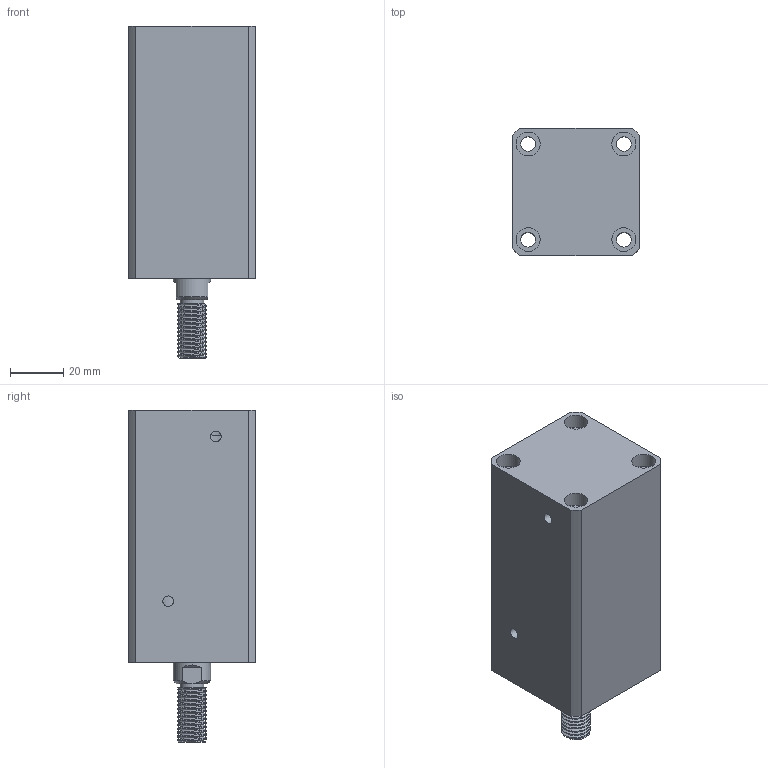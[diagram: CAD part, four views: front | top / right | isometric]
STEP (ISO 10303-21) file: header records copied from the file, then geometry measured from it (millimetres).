
FILE_DESCRIPTION(/* description */ (''),/* implementation_level */ '2;1');
FILE_NAME(/* name */ 'CHTB-sdma25x50w.stp',/* time_stamp */ '2022-04-29T15:03:45+08:00',/* author */ (''),/* organization */ (''),/* preprocessor_version */ 'ST-DEVELOPER v16.7',/* originating_system */ 'SIEMENS PLM Software NX 12.0',/* authorisation */ '');
FILE_SCHEMA (('AUTOMOTIVE_DESIGN { 1 0 10303 214 3 1 1 1 }'));
Length unit declared in the file: millimetre
Products named in the file (1): CHTB-sdma25x50w
Bounding box: 48 x 48 x 125 mm (x, y, z)
Volume: 190524.9 mm3; surface area: 49770.5 mm2
Topology: 3 solids, 3 shells, 484 faces, 1342 edges, 912 vertices
Faces by surface type: plane 311, extrusion 114, cylinder 43, bspline 10, cone 5, torus 1
Full cylindrical faces by diameter (mm): 2.5 x2, 3 x2, 4 x2, 5.6 x4, 7 x2, 9 x9, 14 x2, 21 x2, 23 x2, 25 x5, 31 x1
Entity records: 24028 total; most frequent: CARTESIAN_POINT 9639, ORIENTED_EDGE 2582, DIRECTION 1893, EDGE_CURVE 1291, VECTOR 997, VERTEX_POINT 901, LINE 883, EDGE_LOOP 588
